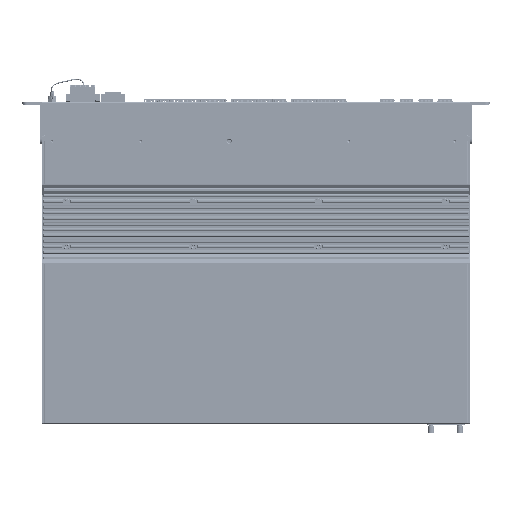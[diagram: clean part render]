
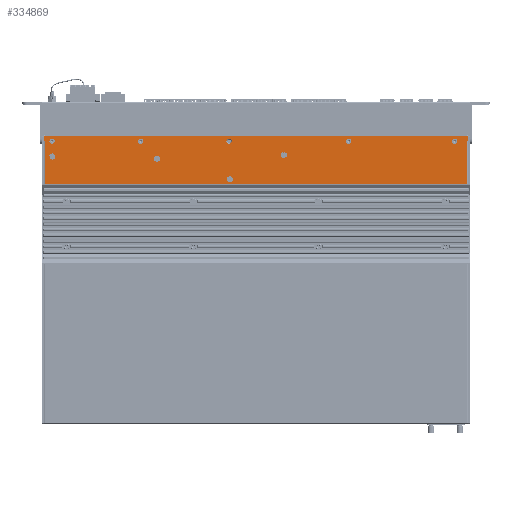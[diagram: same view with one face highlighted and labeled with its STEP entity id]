
A CAD part, front view. The second image highlights one B-rep face of the part: STEP entity #334869.
In plain terms, the highlighted planar face has unit normal (0, -1, 0).
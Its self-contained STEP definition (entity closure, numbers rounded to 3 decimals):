
#333663=CARTESIAN_POINT('',(220.8,-21.9,-84.811));
#333664=VERTEX_POINT('',#333663);
#333671=CARTESIAN_POINT('',(220.8,-21.9,-84.911));
#333672=VERTEX_POINT('',#333671);
#333673=CARTESIAN_POINT('',(220.8,-21.9,-84.911));
#333674=DIRECTION('',(-0.,-0.,1.));
#333675=VECTOR('',#333674,0.1);
#333676=LINE('',#333673,#333675);
#333677=EDGE_CURVE('',#333672,#333664,#333676,.T.);
#334021=CARTESIAN_POINT('',(-220.8,-21.9,-84.911));
#334022=VERTEX_POINT('',#334021);
#334030=CARTESIAN_POINT('',(-220.8,-21.9,-84.811));
#334031=VERTEX_POINT('',#334030);
#334032=CARTESIAN_POINT('',(-220.8,-21.9,-84.811));
#334033=DIRECTION('',(0.,0.,-1.));
#334034=VECTOR('',#334033,0.1);
#334035=LINE('',#334032,#334034);
#334036=EDGE_CURVE('',#334031,#334022,#334035,.T.);
#334618=CARTESIAN_POINT('',(-28.,-21.9,-42.75));
#334619=VERTEX_POINT('',#334618);
#334626=CARTESIAN_POINT('',(-28.,-21.9,-40.));
#334627=DIRECTION('',(-0.,1.,-0.));
#334628=DIRECTION('',(0.,0.,-1.));
#334629=AXIS2_PLACEMENT_3D('',#334626,#334627,#334628);
#334630=CIRCLE('',#334629,2.75);
#334631=EDGE_CURVE('',#334619,#334619,#334630,.T.);
#334639=CARTESIAN_POINT('',(0.,-21.9,0.));
#334640=DIRECTION('',(0.,-1.,0.));
#334641=DIRECTION('',(0.,0.,-1.));
#334642=AXIS2_PLACEMENT_3D('',#334639,#334640,#334641);
#334643=PLANE('',#334642);
#334644=CARTESIAN_POINT('',(-220.8,-21.9,-35.1));
#334645=VERTEX_POINT('',#334644);
#334646=CARTESIAN_POINT('',(-220.8,-21.9,-40.));
#334647=VERTEX_POINT('',#334646);
#334648=CARTESIAN_POINT('',(-220.8,-21.9,-35.1));
#334649=DIRECTION('',(0.,0.,-1.));
#334650=VECTOR('',#334649,4.9);
#334651=LINE('',#334648,#334650);
#334652=EDGE_CURVE('',#334645,#334647,#334651,.T.);
#334653=ORIENTED_EDGE('',*,*,#334652,.T.);
#334654=CARTESIAN_POINT('',(-219.6,-21.9,-40.));
#334655=VERTEX_POINT('',#334654);
#334656=CARTESIAN_POINT('',(-219.6,-21.9,-40.));
#334657=DIRECTION('',(-1.,0.,0.));
#334658=VECTOR('',#334657,1.2);
#334659=LINE('',#334656,#334658);
#334660=EDGE_CURVE('',#334655,#334647,#334659,.T.);
#334661=ORIENTED_EDGE('',*,*,#334660,.F.);
#334662=CARTESIAN_POINT('',(-219.6,-21.9,-84.811));
#334663=VERTEX_POINT('',#334662);
#334664=CARTESIAN_POINT('',(-219.6,-21.9,-84.811));
#334665=DIRECTION('',(0.,0.,1.));
#334666=VECTOR('',#334665,44.811);
#334667=LINE('',#334664,#334666);
#334668=EDGE_CURVE('',#334663,#334655,#334667,.T.);
#334669=ORIENTED_EDGE('',*,*,#334668,.F.);
#334670=CARTESIAN_POINT('',(-219.6,-21.9,-84.811));
#334671=DIRECTION('',(-1.,-0.,0.));
#334672=VECTOR('',#334671,1.2);
#334673=LINE('',#334670,#334672);
#334674=EDGE_CURVE('',#334663,#334031,#334673,.T.);
#334675=ORIENTED_EDGE('',*,*,#334674,.T.);
#334676=ORIENTED_EDGE('',*,*,#334036,.T.);
#334677=CARTESIAN_POINT('',(220.8,-21.9,-84.911));
#334678=DIRECTION('',(-1.,0.,0.));
#334679=VECTOR('',#334678,441.6);
#334680=LINE('',#334677,#334679);
#334681=EDGE_CURVE('',#333672,#334022,#334680,.T.);
#334682=ORIENTED_EDGE('',*,*,#334681,.F.);
#334683=ORIENTED_EDGE('',*,*,#333677,.T.);
#334684=CARTESIAN_POINT('',(219.6,-21.9,-84.811));
#334685=VERTEX_POINT('',#334684);
#334686=CARTESIAN_POINT('',(219.6,-21.9,-84.811));
#334687=DIRECTION('',(1.,0.,-0.));
#334688=VECTOR('',#334687,1.2);
#334689=LINE('',#334686,#334688);
#334690=EDGE_CURVE('',#334685,#333664,#334689,.T.);
#334691=ORIENTED_EDGE('',*,*,#334690,.F.);
#334692=CARTESIAN_POINT('',(219.6,-21.9,-40.));
#334693=VERTEX_POINT('',#334692);
#334694=CARTESIAN_POINT('',(219.6,-21.9,-40.));
#334695=DIRECTION('',(0.,0.,-1.));
#334696=VECTOR('',#334695,44.811);
#334697=LINE('',#334694,#334696);
#334698=EDGE_CURVE('',#334693,#334685,#334697,.T.);
#334699=ORIENTED_EDGE('',*,*,#334698,.F.);
#334700=CARTESIAN_POINT('',(220.8,-21.9,-40.));
#334701=VERTEX_POINT('',#334700);
#334702=CARTESIAN_POINT('',(219.6,-21.9,-40.));
#334703=DIRECTION('',(1.,0.,-0.));
#334704=VECTOR('',#334703,1.2);
#334705=LINE('',#334702,#334704);
#334706=EDGE_CURVE('',#334693,#334701,#334705,.T.);
#334707=ORIENTED_EDGE('',*,*,#334706,.T.);
#334708=CARTESIAN_POINT('',(220.8,-21.9,-35.1));
#334709=VERTEX_POINT('',#334708);
#334710=CARTESIAN_POINT('',(220.8,-21.9,-40.));
#334711=DIRECTION('',(-0.,-0.,1.));
#334712=VECTOR('',#334711,4.9);
#334713=LINE('',#334710,#334712);
#334714=EDGE_CURVE('',#334701,#334709,#334713,.T.);
#334715=ORIENTED_EDGE('',*,*,#334714,.T.);
#334716=CARTESIAN_POINT('',(219.8,-21.9,-34.1));
#334717=VERTEX_POINT('',#334716);
#334718=CARTESIAN_POINT('',(219.8,-21.9,-35.1));
#334719=DIRECTION('',(0.,-1.,0.));
#334720=DIRECTION('',(0.,0.,-1.));
#334721=AXIS2_PLACEMENT_3D('',#334718,#334719,#334720);
#334722=CIRCLE('',#334721,1.);
#334723=EDGE_CURVE('',#334709,#334717,#334722,.T.);
#334724=ORIENTED_EDGE('',*,*,#334723,.T.);
#334725=CARTESIAN_POINT('',(-219.8,-21.9,-34.1));
#334726=VERTEX_POINT('',#334725);
#334727=CARTESIAN_POINT('',(-219.8,-21.9,-34.1));
#334728=DIRECTION('',(1.,0.,-0.));
#334729=VECTOR('',#334728,439.6);
#334730=LINE('',#334727,#334729);
#334731=EDGE_CURVE('',#334726,#334717,#334730,.T.);
#334732=ORIENTED_EDGE('',*,*,#334731,.F.);
#334733=CARTESIAN_POINT('',(-219.8,-21.9,-35.1));
#334734=DIRECTION('',(0.,-1.,0.));
#334735=DIRECTION('',(0.,0.,-1.));
#334736=AXIS2_PLACEMENT_3D('',#334733,#334734,#334735);
#334737=CIRCLE('',#334736,1.);
#334738=EDGE_CURVE('',#334726,#334645,#334737,.T.);
#334739=ORIENTED_EDGE('',*,*,#334738,.T.);
#334740=EDGE_LOOP('',(#334653,#334661,#334669,#334675,#334676,#334682,#334683,#334691,#334699,#334707,#334715,#334724,#334732,#334739));
#334741=FACE_BOUND('',#334740,.T.);
#334742=CARTESIAN_POINT('',(96.5,-21.9,-42.75));
#334743=VERTEX_POINT('',#334742);
#334744=CARTESIAN_POINT('',(96.5,-21.9,-40.));
#334745=DIRECTION('',(-0.,1.,-0.));
#334746=DIRECTION('',(0.,0.,-1.));
#334747=AXIS2_PLACEMENT_3D('',#334744,#334745,#334746);
#334748=CIRCLE('',#334747,2.75);
#334749=EDGE_CURVE('',#334743,#334743,#334748,.T.);
#334750=ORIENTED_EDGE('',*,*,#334749,.T.);
#334751=EDGE_LOOP('',(#334750));
#334752=FACE_BOUND('',#334751,.T.);
#334753=CARTESIAN_POINT('',(-120.,-21.9,-42.75));
#334754=VERTEX_POINT('',#334753);
#334755=CARTESIAN_POINT('',(-120.,-21.9,-40.));
#334756=DIRECTION('',(-0.,1.,-0.));
#334757=DIRECTION('',(0.,0.,-1.));
#334758=AXIS2_PLACEMENT_3D('',#334755,#334756,#334757);
#334759=CIRCLE('',#334758,2.75);
#334760=EDGE_CURVE('',#334754,#334754,#334759,.T.);
#334761=ORIENTED_EDGE('',*,*,#334760,.T.);
#334762=EDGE_LOOP('',(#334761));
#334763=FACE_BOUND('',#334762,.T.);
#334764=CARTESIAN_POINT('',(-212.,-21.9,-42.75));
#334765=VERTEX_POINT('',#334764);
#334766=CARTESIAN_POINT('',(-212.,-21.9,-40.));
#334767=DIRECTION('',(-0.,1.,-0.));
#334768=DIRECTION('',(0.,0.,-1.));
#334769=AXIS2_PLACEMENT_3D('',#334766,#334767,#334768);
#334770=CIRCLE('',#334769,2.75);
#334771=EDGE_CURVE('',#334765,#334765,#334770,.T.);
#334772=ORIENTED_EDGE('',*,*,#334771,.T.);
#334773=EDGE_LOOP('',(#334772));
#334774=FACE_BOUND('',#334773,.T.);
#334775=ORIENTED_EDGE('',*,*,#334631,.T.);
#334776=EDGE_LOOP('',(#334775));
#334777=FACE_BOUND('',#334776,.T.);
#334778=CARTESIAN_POINT('',(-212.,-21.9,-53.3));
#334779=VERTEX_POINT('',#334778);
#334780=CARTESIAN_POINT('',(-209.3,-21.9,-56.));
#334781=VERTEX_POINT('',#334780);
#334782=CARTESIAN_POINT('',(-212.,-21.9,-56.));
#334783=DIRECTION('',(0.,1.,0.));
#334784=DIRECTION('',(0.,-0.,1.));
#334785=AXIS2_PLACEMENT_3D('',#334782,#334783,#334784);
#334786=CIRCLE('',#334785,2.7);
#334787=EDGE_CURVE('',#334779,#334781,#334786,.T.);
#334788=ORIENTED_EDGE('',*,*,#334787,.T.);
#334789=CARTESIAN_POINT('',(-212.,-21.9,-56.));
#334790=DIRECTION('',(0.,1.,0.));
#334791=DIRECTION('',(0.,-0.,1.));
#334792=AXIS2_PLACEMENT_3D('',#334789,#334790,#334791);
#334793=CIRCLE('',#334792,2.7);
#334794=EDGE_CURVE('',#334781,#334779,#334793,.T.);
#334795=ORIENTED_EDGE('',*,*,#334794,.T.);
#334796=EDGE_LOOP('',(#334788,#334795));
#334797=FACE_BOUND('',#334796,.T.);
#334798=CARTESIAN_POINT('',(-103.1,-21.9,-55.6));
#334799=VERTEX_POINT('',#334798);
#334800=CARTESIAN_POINT('',(-100.4,-21.9,-58.3));
#334801=VERTEX_POINT('',#334800);
#334802=CARTESIAN_POINT('',(-103.1,-21.9,-58.3));
#334803=DIRECTION('',(0.,1.,0.));
#334804=DIRECTION('',(0.,-0.,1.));
#334805=AXIS2_PLACEMENT_3D('',#334802,#334803,#334804);
#334806=CIRCLE('',#334805,2.7);
#334807=EDGE_CURVE('',#334799,#334801,#334806,.T.);
#334808=ORIENTED_EDGE('',*,*,#334807,.T.);
#334809=CARTESIAN_POINT('',(-103.1,-21.9,-58.3));
#334810=DIRECTION('',(0.,1.,0.));
#334811=DIRECTION('',(0.,-0.,1.));
#334812=AXIS2_PLACEMENT_3D('',#334809,#334810,#334811);
#334813=CIRCLE('',#334812,2.7);
#334814=EDGE_CURVE('',#334801,#334799,#334813,.T.);
#334815=ORIENTED_EDGE('',*,*,#334814,.T.);
#334816=EDGE_LOOP('',(#334808,#334815));
#334817=FACE_BOUND('',#334816,.T.);
#334818=CARTESIAN_POINT('',(-27.3,-21.9,-76.8));
#334819=VERTEX_POINT('',#334818);
#334820=CARTESIAN_POINT('',(-24.6,-21.9,-79.5));
#334821=VERTEX_POINT('',#334820);
#334822=CARTESIAN_POINT('',(-27.3,-21.9,-79.5));
#334823=DIRECTION('',(0.,1.,0.));
#334824=DIRECTION('',(0.,-0.,1.));
#334825=AXIS2_PLACEMENT_3D('',#334822,#334823,#334824);
#334826=CIRCLE('',#334825,2.7);
#334827=EDGE_CURVE('',#334819,#334821,#334826,.T.);
#334828=ORIENTED_EDGE('',*,*,#334827,.T.);
#334829=CARTESIAN_POINT('',(-27.3,-21.9,-79.5));
#334830=DIRECTION('',(0.,1.,0.));
#334831=DIRECTION('',(0.,-0.,1.));
#334832=AXIS2_PLACEMENT_3D('',#334829,#334830,#334831);
#334833=CIRCLE('',#334832,2.7);
#334834=EDGE_CURVE('',#334821,#334819,#334833,.T.);
#334835=ORIENTED_EDGE('',*,*,#334834,.T.);
#334836=EDGE_LOOP('',(#334828,#334835));
#334837=FACE_BOUND('',#334836,.T.);
#334838=CARTESIAN_POINT('',(28.7,-21.9,-51.8));
#334839=VERTEX_POINT('',#334838);
#334840=CARTESIAN_POINT('',(31.4,-21.9,-54.5));
#334841=VERTEX_POINT('',#334840);
#334842=CARTESIAN_POINT('',(28.7,-21.9,-54.5));
#334843=DIRECTION('',(0.,1.,0.));
#334844=DIRECTION('',(0.,-0.,1.));
#334845=AXIS2_PLACEMENT_3D('',#334842,#334843,#334844);
#334846=CIRCLE('',#334845,2.7);
#334847=EDGE_CURVE('',#334839,#334841,#334846,.T.);
#334848=ORIENTED_EDGE('',*,*,#334847,.T.);
#334849=CARTESIAN_POINT('',(28.7,-21.9,-54.5));
#334850=DIRECTION('',(0.,1.,0.));
#334851=DIRECTION('',(0.,-0.,1.));
#334852=AXIS2_PLACEMENT_3D('',#334849,#334850,#334851);
#334853=CIRCLE('',#334852,2.7);
#334854=EDGE_CURVE('',#334841,#334839,#334853,.T.);
#334855=ORIENTED_EDGE('',*,*,#334854,.T.);
#334856=EDGE_LOOP('',(#334848,#334855));
#334857=FACE_BOUND('',#334856,.T.);
#334858=CARTESIAN_POINT('',(206.5,-21.9,-42.75));
#334859=VERTEX_POINT('',#334858);
#334860=CARTESIAN_POINT('',(206.5,-21.9,-40.));
#334861=DIRECTION('',(-0.,1.,-0.));
#334862=DIRECTION('',(0.,0.,-1.));
#334863=AXIS2_PLACEMENT_3D('',#334860,#334861,#334862);
#334864=CIRCLE('',#334863,2.75);
#334865=EDGE_CURVE('',#334859,#334859,#334864,.T.);
#334866=ORIENTED_EDGE('',*,*,#334865,.T.);
#334867=EDGE_LOOP('',(#334866));
#334868=FACE_BOUND('',#334867,.T.);
#334869=ADVANCED_FACE('',(#334741,#334752,#334763,#334774,#334777,#334797,#334817,#334837,#334857,#334868),#334643,.T.);
